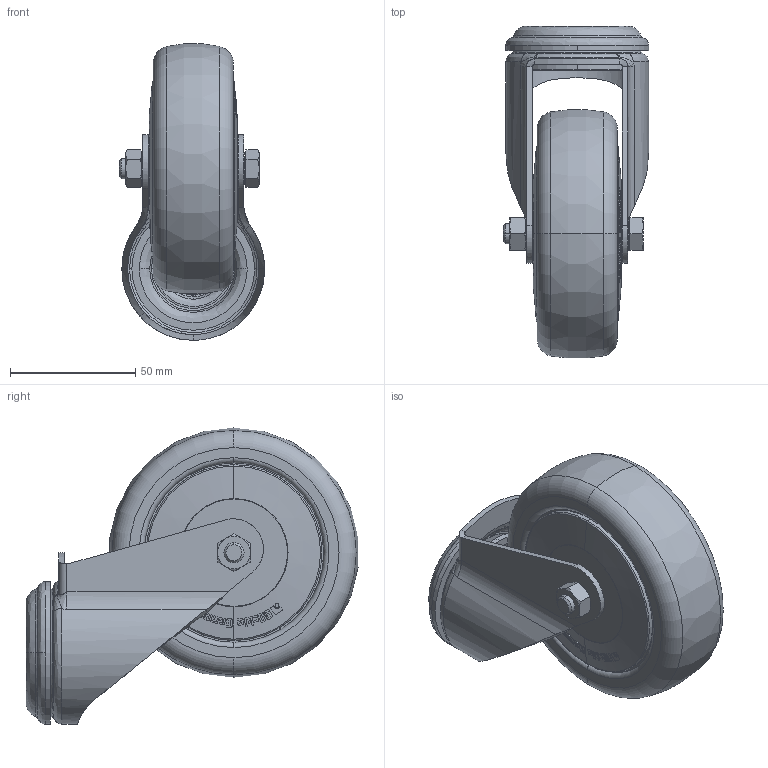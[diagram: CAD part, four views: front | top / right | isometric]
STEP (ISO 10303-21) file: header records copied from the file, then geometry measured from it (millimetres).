
FILE_DESCRIPTION (( 'STEP AP214' ), '1' );
FILE_NAME ('LKRXA-TPA_101KD-FK_574392-214.step', '2012-10-13T16:18:25', ( 'Matthias Senn' ), ( 'Blickle Räder+Rollen' ), 'SwSTEP 2.0', 'SolidWorks 2010', '' );
FILE_SCHEMA (( 'AUTOMOTIVE_DESIGN' ));
Length unit declared in the file: millimetre
Products named in the file (4): TPA-K-FK_G15_TPA_101_8KD-FK; GH-LKRXA_100-13_G15; AM_LKRXA_12x36_G_G15; LKRXA-TPA_101KD-FK_574392-214
Assembly tree (3 placements, depth 2):
  LKRXA-TPA_101KD-FK_574392-214
    AM_LKRXA_12x36_G_G15
    TPA-K-FK_G15_TPA_101_8KD-FK
    GH-LKRXA_100-13_G15
Bounding box: 58 x 132.49 x 118.36 mm (x, y, z)
Volume: 292886.1 mm3; surface area: 56401.8 mm2
Topology: 3 solids, 3 shells, 983 faces, 2552 edges, 1665 vertices
Faces by surface type: plane 500, bspline 312, cone 99, cylinder 46, torus 26
Entity records: 61467 total; most frequent: CARTESIAN_POINT 29504, ORIENTED_EDGE 5104, DIRECTION 3034, EDGE_CURVE 2552, VERTEX_POINT 1665, B_SPLINE_CURVE_WITH_KNOTS 1156, LINE 1078, VECTOR 1078
